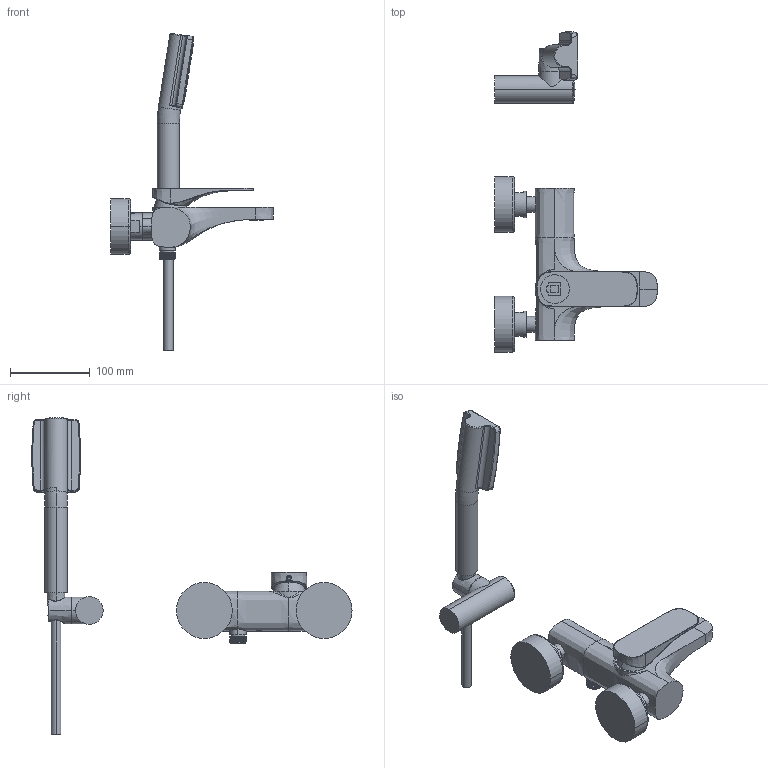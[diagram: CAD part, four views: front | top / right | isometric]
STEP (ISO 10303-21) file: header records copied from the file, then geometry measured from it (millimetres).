
FILE_DESCRIPTION((''),'2;1');
FILE_NAME('3D_SW0001','2012-10-26T',('ivanv'),(''),'PRO/ENGINEER BY PARAMETRIC TECHNOLOGY CORPORATION, 2011370','PRO/ENGINEER BY PARAMETRIC TECHNOLOGY CORPORATION, 2011370','');
FILE_SCHEMA(('CONFIG_CONTROL_DESIGN'));
Products named in the file (1): 3D_SW0001
Bounding box: 204 x 400.89 x 396.8 mm (x, y, z)
Volume: 625613.3 mm3; surface area: 248413.6 mm2
Topology: 5 solids, 7 shells, 1027 faces, 2320 edges, 1462 vertices
Faces by surface type: cylinder 440, plane 330, bspline 90, cone 69, torus 58, extrusion 32, sphere 8
Entity records: 51352 total; most frequent: CARTESIAN_POINT 28654, DIRECTION 4712, ORIENTED_EDGE 4618, EDGE_CURVE 2309, AXIS2_PLACEMENT_3D 1927, VERTEX_POINT 1462, EDGE_LOOP 1213, FACE_OUTER_BOUND 1026
